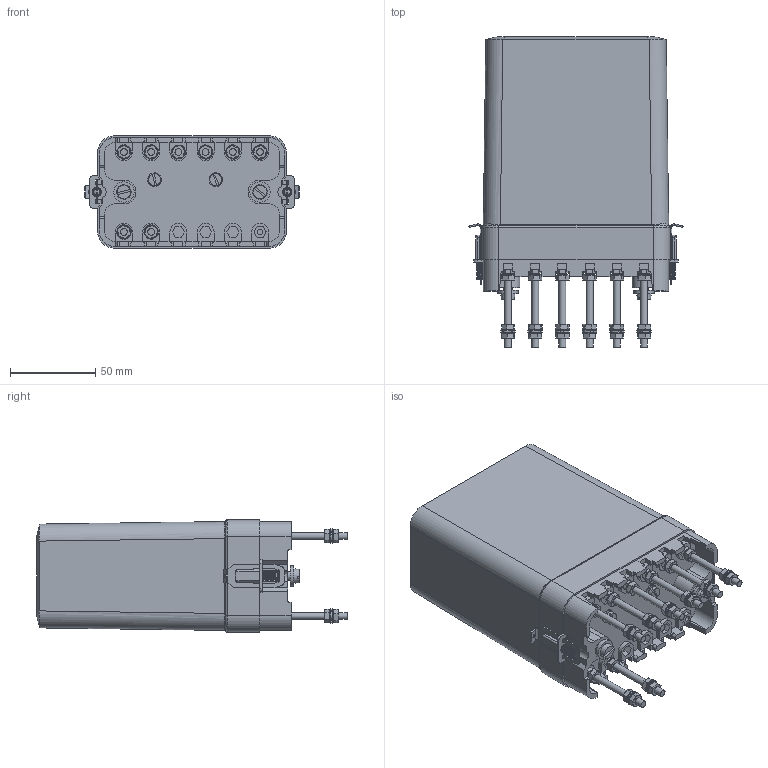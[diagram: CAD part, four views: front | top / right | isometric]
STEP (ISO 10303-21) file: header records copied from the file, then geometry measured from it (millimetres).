
FILE_DESCRIPTION(('STEP AP203'), '1');
FILE_NAME('ÐÑÂ-01-5 çàäíåå ïðèîåäèíåíèå øïèëüêîé', '', ('UNSPECIFIED'), ('UNSPECIFIED'), 'ASCON STEP Converter 1.3', 'ASCON Math Kernel', '');
FILE_SCHEMA(('CONFIG_CONTROL_DESIGN'));
Length unit declared in the file: millimetre
Bounding box: 126.2 x 182.5 x 66 mm (x, y, z)
Volume: 168836.5 mm3; surface area: 133692.3 mm2
Topology: 1 solids, 1 shells, 2057 faces, 5406 edges, 3405 vertices
Faces by surface type: plane 1530, cylinder 393, torus 70, bspline 38, cone 24, sphere 2
Full cylindrical faces by diameter (mm): 2 x2, 3.242 x10, 3.5 x2, 4 x43, 4.2 x10, 4.5 x10, 5 x2, 5.5 x14, 7 x2, 8 x10, 9.5 x2, 12 x2
Entity records: 93341 total; most frequent: CARTESIAN_POINT 26523, ORIENTED_EDGE 10506, DIRECTION 10062, EDGE_CURVE 5253, LINE 3900, VECTOR 3900, VERTEX_POINT 3403, AXIS2_PLACEMENT_3D 3081
